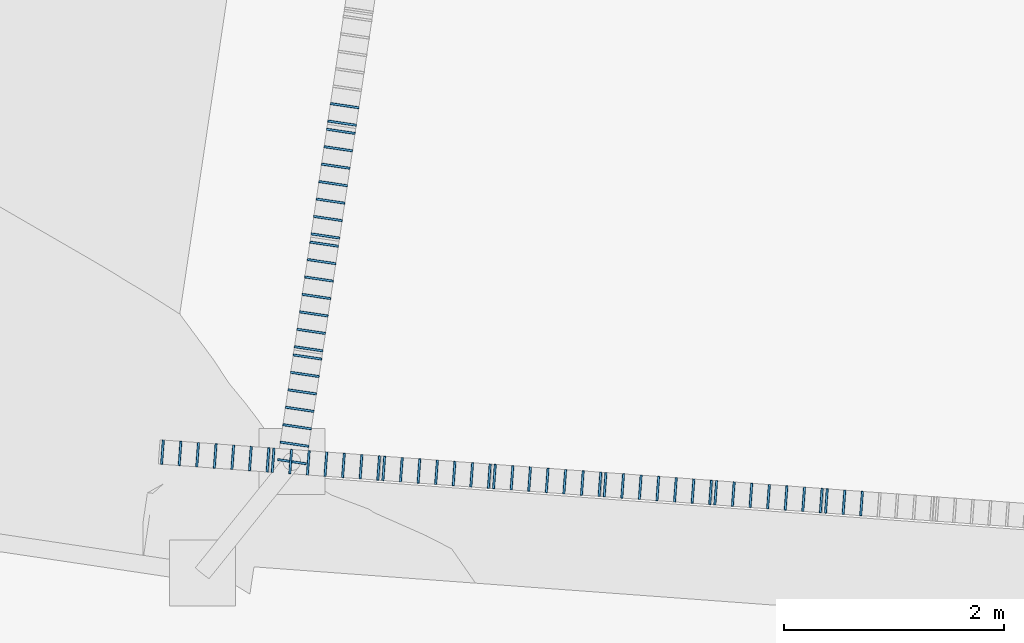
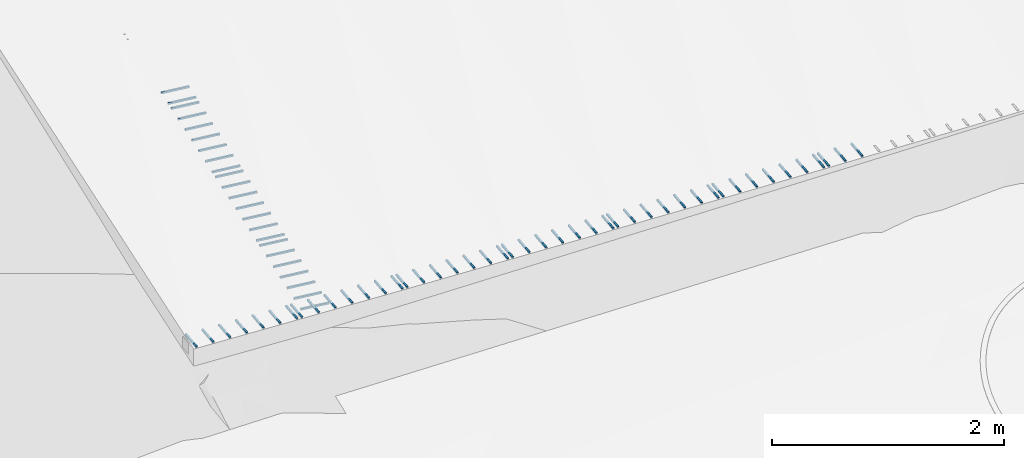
# Not in any storey, part 1 of 33: 68 members.
"""IFC4 model written with IfcOpenShell, lengths in metres."""

from ifc_helpers import new_model, si_unit, direction, frame, origin_with_axes, place, context, subcontext, project, spatial, rectangle, extrude, material, material_profile, profile_set, profile_usage, type_object, element, save


model = new_model("IFC4")

# Units and contexts
model_context = context("Model", 3, precision=1e-05, world=origin_with_axes(), true_north=direction((0.0, 1.0)))
body_context = subcontext(model_context, "Body", "Model", "MODEL_VIEW")
ifc_project = project(units=[si_unit("LENGTHUNIT", "METRE"), si_unit("AREAUNIT", "SQUARE_METRE"), si_unit("VOLUMEUNIT", "CUBIC_METRE")], contexts=[model_context])

# Site
site_placement = place(None, origin_with_axes())
site = spatial("IfcSite", under=ifc_project, at=site_placement, Name="Lares · Rua das Mercês · artigo 4771")

# Members
ifc_material = material(Name="Aço galvanizado / Stahl verzinkt", Category="steel")
ifc_material_profile = material_profile(ifc_material, rectangle(XDim=0.018, YDim=0.018))
ifc_profile_set = profile_set([ifc_material_profile], Name="R0.018")
ifc_profile_usage_1 = profile_usage(ifc_profile_set)
member_type = type_object("IfcMemberType", Name="R0.018 / galvanized", PredefinedType="NOTDEFINED", material=ifc_profile_set)
member_1_placement = place(site_placement, frame((46.6781659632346, 3.21903756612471, 14.4967569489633), z_axis=(0.0733060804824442, 0.997309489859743, 0.0), x_axis=(0.997309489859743, -0.0733060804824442, 0.0)))
element("IfcMember", 1, at=member_1_placement, inside=site, type_object=member_type, material=ifc_profile_usage_1, Name="Acesso · dreno lateral raso · grelha", context=body_context, shape_type="SweptSolid", body=[
    extrude(rectangle(XDim=0.018, YDim=0.018), origin_with_axes(), (0.0, 0.0, 1.0), 0.22),
])
ifc_profile_usage_2 = profile_usage(ifc_profile_set)
member_2_placement = place(site_placement, frame((46.8377354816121, 3.20730859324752, 14.4975940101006), z_axis=(0.0733060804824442, 0.997309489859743, 0.0), x_axis=(0.997309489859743, -0.0733060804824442, 0.0)))
element("IfcMember", 2, at=member_2_placement, inside=site, type_object=member_type, material=ifc_profile_usage_2, Name="Acesso · dreno lateral raso · grelha", context=body_context, shape_type="SweptSolid", body=[
    extrude(rectangle(XDim=0.018, YDim=0.018), origin_with_axes(), (0.0, 0.0, 1.0), 0.22),
])
ifc_profile_usage_3 = profile_usage(ifc_profile_set)
member_3_placement = place(site_placement, frame((46.9973049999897, 3.19557962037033, 14.498431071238), z_axis=(0.0733060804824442, 0.997309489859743, 0.0), x_axis=(0.997309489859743, -0.0733060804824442, 0.0)))
element("IfcMember", 3, at=member_3_placement, inside=site, type_object=member_type, material=ifc_profile_usage_3, Name="Acesso · dreno lateral raso · grelha", context=body_context, shape_type="SweptSolid", body=[
    extrude(rectangle(XDim=0.018, YDim=0.018), origin_with_axes(), (0.0, 0.0, 1.0), 0.22),
])
ifc_profile_usage_4 = profile_usage(ifc_profile_set)
member_4_placement = place(site_placement, frame((47.1568745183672, 3.18385064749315, 14.4992681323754), z_axis=(0.0733060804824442, 0.997309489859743, 0.0), x_axis=(0.997309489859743, -0.0733060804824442, 0.0)))
element("IfcMember", 4, at=member_4_placement, inside=site, type_object=member_type, material=ifc_profile_usage_4, Name="Acesso · dreno lateral raso · grelha", context=body_context, shape_type="SweptSolid", body=[
    extrude(rectangle(XDim=0.018, YDim=0.018), origin_with_axes(), (0.0, 0.0, 1.0), 0.22),
])
ifc_profile_usage_5 = profile_usage(ifc_profile_set)
member_5_placement = place(site_placement, frame((47.3164440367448, 3.17212167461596, 14.5001051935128), z_axis=(0.0733060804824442, 0.997309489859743, 0.0), x_axis=(0.997309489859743, -0.0733060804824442, 0.0)))
element("IfcMember", 5, at=member_5_placement, inside=site, type_object=member_type, material=ifc_profile_usage_5, Name="Acesso · dreno lateral raso · grelha", context=body_context, shape_type="SweptSolid", body=[
    extrude(rectangle(XDim=0.018, YDim=0.018), origin_with_axes(), (0.0, 0.0, 1.0), 0.22),
])
ifc_profile_usage_6 = profile_usage(ifc_profile_set)
member_6_placement = place(site_placement, frame((47.4760135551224, 3.16039270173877, 14.5009422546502), z_axis=(0.0733060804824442, 0.997309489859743, 0.0), x_axis=(0.997309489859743, -0.0733060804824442, 0.0)))
element("IfcMember", 6, at=member_6_placement, inside=site, type_object=member_type, material=ifc_profile_usage_6, Name="Acesso · dreno lateral raso · grelha", context=body_context, shape_type="SweptSolid", body=[
    extrude(rectangle(XDim=0.018, YDim=0.018), origin_with_axes(), (0.0, 0.0, 1.0), 0.22),
])
ifc_profile_usage_7 = profile_usage(ifc_profile_set)
member_7_placement = place(site_placement, frame((47.6355830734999, 3.14866372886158, 14.5017793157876), z_axis=(0.0733060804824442, 0.997309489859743, 0.0), x_axis=(0.997309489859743, -0.0733060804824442, 0.0)))
element("IfcMember", 7, at=member_7_placement, inside=site, type_object=member_type, material=ifc_profile_usage_7, Name="Acesso · dreno lateral raso · grelha", context=body_context, shape_type="SweptSolid", body=[
    extrude(rectangle(XDim=0.018, YDim=0.018), origin_with_axes(), (0.0, 0.0, 1.0), 0.22),
])
ifc_profile_usage_8 = profile_usage(ifc_profile_set)
member_8_placement = place(site_placement, frame((47.6823379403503, 3.14522706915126, 14.5020796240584), z_axis=(0.0733059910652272, 0.997309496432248, 0.0), x_axis=(0.997309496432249, -0.0733059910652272, 0.0)))
element("IfcMember", 8, at=member_8_placement, inside=site, type_object=member_type, material=ifc_profile_usage_8, Name="Acesso · dreno lateral raso · grelha", context=body_context, shape_type="SweptSolid", body=[
    extrude(rectangle(XDim=0.018, YDim=0.018), origin_with_axes(), (0.0, 0.0, 1.0), 0.22),
])
ifc_profile_usage_9 = profile_usage(ifc_profile_set)
member_9_placement = place(site_placement, frame((47.8419074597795, 3.13349811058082, 14.5032102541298), z_axis=(0.0733059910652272, 0.997309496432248, 0.0), x_axis=(0.997309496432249, -0.0733059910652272, 0.0)))
element("IfcMember", 9, at=member_9_placement, inside=site, type_object=member_type, material=ifc_profile_usage_9, Name="Acesso · dreno lateral raso · grelha", context=body_context, shape_type="SweptSolid", body=[
    extrude(rectangle(XDim=0.018, YDim=0.018), origin_with_axes(), (0.0, 0.0, 1.0), 0.22),
])
ifc_profile_usage_10 = profile_usage(ifc_profile_set)
member_10_placement = place(site_placement, frame((48.0014769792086, 3.12176915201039, 14.5043408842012), z_axis=(0.0733059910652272, 0.997309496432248, 0.0), x_axis=(0.997309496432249, -0.0733059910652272, 0.0)))
element("IfcMember", 10, at=member_10_placement, inside=site, type_object=member_type, material=ifc_profile_usage_10, Name="Acesso · dreno lateral raso · grelha", context=body_context, shape_type="SweptSolid", body=[
    extrude(rectangle(XDim=0.018, YDim=0.018), origin_with_axes(), (0.0, 0.0, 1.0), 0.22),
])
ifc_profile_usage_11 = profile_usage(ifc_profile_set)
member_11_placement = place(site_placement, frame((48.1610464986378, 3.11004019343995, 14.5054715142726), z_axis=(0.0733059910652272, 0.997309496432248, 0.0), x_axis=(0.997309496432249, -0.0733059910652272, 0.0)))
element("IfcMember", 11, at=member_11_placement, inside=site, type_object=member_type, material=ifc_profile_usage_11, Name="Acesso · dreno lateral raso · grelha", context=body_context, shape_type="SweptSolid", body=[
    extrude(rectangle(XDim=0.018, YDim=0.018), origin_with_axes(), (0.0, 0.0, 1.0), 0.22),
])
ifc_profile_usage_12 = profile_usage(ifc_profile_set)
member_12_placement = place(site_placement, frame((48.3206160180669, 3.09831123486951, 14.506602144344), z_axis=(0.0733059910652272, 0.997309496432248, 0.0), x_axis=(0.997309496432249, -0.0733059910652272, 0.0)))
element("IfcMember", 12, at=member_12_placement, inside=site, type_object=member_type, material=ifc_profile_usage_12, Name="Acesso · dreno lateral raso · grelha", context=body_context, shape_type="SweptSolid", body=[
    extrude(rectangle(XDim=0.018, YDim=0.018), origin_with_axes(), (0.0, 0.0, 1.0), 0.22),
])
ifc_profile_usage_13 = profile_usage(ifc_profile_set)
member_13_placement = place(site_placement, frame((48.4801855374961, 3.08658227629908, 14.5077327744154), z_axis=(0.0733059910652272, 0.997309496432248, 0.0), x_axis=(0.997309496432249, -0.0733059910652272, 0.0)))
element("IfcMember", 13, at=member_13_placement, inside=site, type_object=member_type, material=ifc_profile_usage_13, Name="Acesso · dreno lateral raso · grelha", context=body_context, shape_type="SweptSolid", body=[
    extrude(rectangle(XDim=0.018, YDim=0.018), origin_with_axes(), (0.0, 0.0, 1.0), 0.22),
])
ifc_profile_usage_14 = profile_usage(ifc_profile_set)
member_14_placement = place(site_placement, frame((48.6397550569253, 3.07485331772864, 14.5088634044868), z_axis=(0.0733059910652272, 0.997309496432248, 0.0), x_axis=(0.997309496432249, -0.0733059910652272, 0.0)))
element("IfcMember", 14, at=member_14_placement, inside=site, type_object=member_type, material=ifc_profile_usage_14, Name="Acesso · dreno lateral raso · grelha", context=body_context, shape_type="SweptSolid", body=[
    extrude(rectangle(XDim=0.018, YDim=0.018), origin_with_axes(), (0.0, 0.0, 1.0), 0.22),
])
ifc_profile_usage_15 = profile_usage(ifc_profile_set)
member_15_placement = place(site_placement, frame((48.6865066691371, 3.07141690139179, 14.5092497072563), z_axis=(0.073305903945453, 0.997309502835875, 0.0), x_axis=(0.997309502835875, -0.073305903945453, 0.0)))
element("IfcMember", 15, at=member_15_placement, inside=site, type_object=member_type, material=ifc_profile_usage_15, Name="Acesso · dreno lateral raso · grelha", context=body_context, shape_type="SweptSolid", body=[
    extrude(rectangle(XDim=0.018, YDim=0.018), origin_with_axes(), (0.0, 0.0, 1.0), 0.22),
])
ifc_profile_usage_16 = profile_usage(ifc_profile_set)
member_16_placement = place(site_placement, frame((48.8460761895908, 3.05968795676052, 14.5106739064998), z_axis=(0.073305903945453, 0.997309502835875, 0.0), x_axis=(0.997309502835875, -0.073305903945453, 0.0)))
element("IfcMember", 16, at=member_16_placement, inside=site, type_object=member_type, material=ifc_profile_usage_16, Name="Acesso · dreno lateral raso · grelha", context=body_context, shape_type="SweptSolid", body=[
    extrude(rectangle(XDim=0.018, YDim=0.018), origin_with_axes(), (0.0, 0.0, 1.0), 0.22),
])
ifc_profile_usage_17 = profile_usage(ifc_profile_set)
member_17_placement = place(site_placement, frame((49.0056457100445, 3.04795901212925, 14.5120981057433), z_axis=(0.073305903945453, 0.997309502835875, 0.0), x_axis=(0.997309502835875, -0.073305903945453, 0.0)))
element("IfcMember", 17, at=member_17_placement, inside=site, type_object=member_type, material=ifc_profile_usage_17, Name="Acesso · dreno lateral raso · grelha", context=body_context, shape_type="SweptSolid", body=[
    extrude(rectangle(XDim=0.018, YDim=0.018), origin_with_axes(), (0.0, 0.0, 1.0), 0.22),
])
ifc_profile_usage_18 = profile_usage(ifc_profile_set)
member_18_placement = place(site_placement, frame((49.1652152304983, 3.03623006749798, 14.5135223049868), z_axis=(0.073305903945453, 0.997309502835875, 0.0), x_axis=(0.997309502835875, -0.073305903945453, 0.0)))
element("IfcMember", 18, at=member_18_placement, inside=site, type_object=member_type, material=ifc_profile_usage_18, Name="Acesso · dreno lateral raso · grelha", context=body_context, shape_type="SweptSolid", body=[
    extrude(rectangle(XDim=0.018, YDim=0.018), origin_with_axes(), (0.0, 0.0, 1.0), 0.22),
])
ifc_profile_usage_19 = profile_usage(ifc_profile_set)
member_19_placement = place(site_placement, frame((49.324784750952, 3.02450112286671, 14.5149465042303), z_axis=(0.073305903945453, 0.997309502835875, 0.0), x_axis=(0.997309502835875, -0.073305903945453, 0.0)))
element("IfcMember", 19, at=member_19_placement, inside=site, type_object=member_type, material=ifc_profile_usage_19, Name="Acesso · dreno lateral raso · grelha", context=body_context, shape_type="SweptSolid", body=[
    extrude(rectangle(XDim=0.018, YDim=0.018), origin_with_axes(), (0.0, 0.0, 1.0), 0.22),
])
ifc_profile_usage_20 = profile_usage(ifc_profile_set)
member_20_placement = place(site_placement, frame((49.4843542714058, 3.01277217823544, 14.5163707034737), z_axis=(0.073305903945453, 0.997309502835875, 0.0), x_axis=(0.997309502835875, -0.073305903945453, 0.0)))
element("IfcMember", 20, at=member_20_placement, inside=site, type_object=member_type, material=ifc_profile_usage_20, Name="Acesso · dreno lateral raso · grelha", context=body_context, shape_type="SweptSolid", body=[
    extrude(rectangle(XDim=0.018, YDim=0.018), origin_with_axes(), (0.0, 0.0, 1.0), 0.22),
])
ifc_profile_usage_21 = profile_usage(ifc_profile_set)
member_21_placement = place(site_placement, frame((49.6439237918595, 3.00104323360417, 14.5177949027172), z_axis=(0.073305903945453, 0.997309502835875, 0.0), x_axis=(0.997309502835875, -0.073305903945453, 0.0)))
element("IfcMember", 21, at=member_21_placement, inside=site, type_object=member_type, material=ifc_profile_usage_21, Name="Acesso · dreno lateral raso · grelha", context=body_context, shape_type="SweptSolid", body=[
    extrude(rectangle(XDim=0.018, YDim=0.018), origin_with_axes(), (0.0, 0.0, 1.0), 0.22),
])
ifc_profile_usage_22 = profile_usage(ifc_profile_set)
member_22_placement = place(site_placement, frame((49.6906720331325, 2.99760706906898, 14.5182671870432), z_axis=(0.073305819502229, 0.997309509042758, 0.0), x_axis=(0.997309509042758, -0.073305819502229, 0.0)))
element("IfcMember", 22, at=member_22_placement, inside=site, type_object=member_type, material=ifc_profile_usage_22, Name="Acesso · dreno lateral raso · grelha", context=body_context, shape_type="SweptSolid", body=[
    extrude(rectangle(XDim=0.018, YDim=0.018), origin_with_axes(), (0.0, 0.0, 1.0), 0.22),
])
ifc_profile_usage_23 = profile_usage(ifc_profile_set)
member_23_placement = place(site_placement, frame((49.8502415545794, 2.98587813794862, 14.5199849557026), z_axis=(0.073305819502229, 0.997309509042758, 0.0), x_axis=(0.997309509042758, -0.073305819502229, 0.0)))
element("IfcMember", 23, at=member_23_placement, inside=site, type_object=member_type, material=ifc_profile_usage_23, Name="Acesso · dreno lateral raso · grelha", context=body_context, shape_type="SweptSolid", body=[
    extrude(rectangle(XDim=0.018, YDim=0.018), origin_with_axes(), (0.0, 0.0, 1.0), 0.22),
])
ifc_profile_usage_24 = profile_usage(ifc_profile_set)
member_24_placement = place(site_placement, frame((50.0098110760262, 2.97414920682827, 14.521702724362), z_axis=(0.073305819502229, 0.997309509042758, 0.0), x_axis=(0.997309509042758, -0.073305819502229, 0.0)))
element("IfcMember", 24, at=member_24_placement, inside=site, type_object=member_type, material=ifc_profile_usage_24, Name="Acesso · dreno lateral raso · grelha", context=body_context, shape_type="SweptSolid", body=[
    extrude(rectangle(XDim=0.018, YDim=0.018), origin_with_axes(), (0.0, 0.0, 1.0), 0.22),
])
ifc_profile_usage_25 = profile_usage(ifc_profile_set)
member_25_placement = place(site_placement, frame((50.169380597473, 2.96242027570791, 14.5234204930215), z_axis=(0.073305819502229, 0.997309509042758, 0.0), x_axis=(0.997309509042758, -0.073305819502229, 0.0)))
element("IfcMember", 25, at=member_25_placement, inside=site, type_object=member_type, material=ifc_profile_usage_25, Name="Acesso · dreno lateral raso · grelha", context=body_context, shape_type="SweptSolid", body=[
    extrude(rectangle(XDim=0.018, YDim=0.018), origin_with_axes(), (0.0, 0.0, 1.0), 0.22),
])
ifc_profile_usage_26 = profile_usage(ifc_profile_set)
member_26_placement = place(site_placement, frame((50.3289501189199, 2.95069134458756, 14.5251382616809), z_axis=(0.073305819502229, 0.997309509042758, 0.0), x_axis=(0.997309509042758, -0.073305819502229, 0.0)))
element("IfcMember", 26, at=member_26_placement, inside=site, type_object=member_type, material=ifc_profile_usage_26, Name="Acesso · dreno lateral raso · grelha", context=body_context, shape_type="SweptSolid", body=[
    extrude(rectangle(XDim=0.018, YDim=0.018), origin_with_axes(), (0.0, 0.0, 1.0), 0.22),
])
ifc_profile_usage_27 = profile_usage(ifc_profile_set)
member_27_placement = place(site_placement, frame((50.4885196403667, 2.9389624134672, 14.5268560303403), z_axis=(0.073305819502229, 0.997309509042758, 0.0), x_axis=(0.997309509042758, -0.073305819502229, 0.0)))
element("IfcMember", 27, at=member_27_placement, inside=site, type_object=member_type, material=ifc_profile_usage_27, Name="Acesso · dreno lateral raso · grelha", context=body_context, shape_type="SweptSolid", body=[
    extrude(rectangle(XDim=0.018, YDim=0.018), origin_with_axes(), (0.0, 0.0, 1.0), 0.22),
])
ifc_profile_usage_28 = profile_usage(ifc_profile_set)
member_28_placement = place(site_placement, frame((50.6480891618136, 2.92723348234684, 14.5285737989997), z_axis=(0.073305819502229, 0.997309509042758, 0.0), x_axis=(0.997309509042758, -0.073305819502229, 0.0)))
element("IfcMember", 28, at=member_28_placement, inside=site, type_object=member_type, material=ifc_profile_usage_28, Name="Acesso · dreno lateral raso · grelha", context=body_context, shape_type="SweptSolid", body=[
    extrude(rectangle(XDim=0.018, YDim=0.018), origin_with_axes(), (0.0, 0.0, 1.0), 0.22),
])
ifc_profile_usage_29 = profile_usage(ifc_profile_set)
member_29_placement = place(site_placement, frame((50.6948339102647, 2.92379757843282, 14.5291320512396), z_axis=(0.0733057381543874, 0.997309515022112, 0.0), x_axis=(0.997309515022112, -0.0733057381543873, 0.0)))
element("IfcMember", 29, at=member_29_placement, inside=site, type_object=member_type, material=ifc_profile_usage_29, Name="Acesso · dreno lateral raso · grelha", context=body_context, shape_type="SweptSolid", body=[
    extrude(rectangle(XDim=0.018, YDim=0.018), origin_with_axes(), (0.0, 0.0, 1.0), 0.22),
])
ifc_profile_usage_30 = profile_usage(ifc_profile_set)
member_30_placement = place(site_placement, frame((50.8544034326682, 2.91206866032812, 14.5311433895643), z_axis=(0.0733057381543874, 0.997309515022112, 0.0), x_axis=(0.997309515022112, -0.0733057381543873, 0.0)))
element("IfcMember", 30, at=member_30_placement, inside=site, type_object=member_type, material=ifc_profile_usage_30, Name="Acesso · dreno lateral raso · grelha", context=body_context, shape_type="SweptSolid", body=[
    extrude(rectangle(XDim=0.018, YDim=0.018), origin_with_axes(), (0.0, 0.0, 1.0), 0.22),
])
ifc_profile_usage_31 = profile_usage(ifc_profile_set)
member_31_placement = place(site_placement, frame((51.0139729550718, 2.90033974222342, 14.533154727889), z_axis=(0.0733057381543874, 0.997309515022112, 0.0), x_axis=(0.997309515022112, -0.0733057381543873, 0.0)))
element("IfcMember", 31, at=member_31_placement, inside=site, type_object=member_type, material=ifc_profile_usage_31, Name="Acesso · dreno lateral raso · grelha", context=body_context, shape_type="SweptSolid", body=[
    extrude(rectangle(XDim=0.018, YDim=0.018), origin_with_axes(), (0.0, 0.0, 1.0), 0.22),
])
ifc_profile_usage_32 = profile_usage(ifc_profile_set)
member_32_placement = place(site_placement, frame((51.1735424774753, 2.88861082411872, 14.5351660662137), z_axis=(0.0733057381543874, 0.997309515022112, 0.0), x_axis=(0.997309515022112, -0.0733057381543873, 0.0)))
element("IfcMember", 32, at=member_32_placement, inside=site, type_object=member_type, material=ifc_profile_usage_32, Name="Acesso · dreno lateral raso · grelha", context=body_context, shape_type="SweptSolid", body=[
    extrude(rectangle(XDim=0.018, YDim=0.018), origin_with_axes(), (0.0, 0.0, 1.0), 0.22),
])
ifc_profile_usage_33 = profile_usage(ifc_profile_set)
member_33_placement = place(site_placement, frame((51.3331119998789, 2.87688190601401, 14.5371774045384), z_axis=(0.0733057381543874, 0.997309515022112, 0.0), x_axis=(0.997309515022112, -0.0733057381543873, 0.0)))
element("IfcMember", 33, at=member_33_placement, inside=site, type_object=member_type, material=ifc_profile_usage_33, Name="Acesso · dreno lateral raso · grelha", context=body_context, shape_type="SweptSolid", body=[
    extrude(rectangle(XDim=0.018, YDim=0.018), origin_with_axes(), (0.0, 0.0, 1.0), 0.22),
])
ifc_profile_usage_34 = profile_usage(ifc_profile_set)
member_34_placement = place(site_placement, frame((51.4926815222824, 2.86515298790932, 14.5391887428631), z_axis=(0.0733057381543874, 0.997309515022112, 0.0), x_axis=(0.997309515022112, -0.0733057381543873, 0.0)))
element("IfcMember", 34, at=member_34_placement, inside=site, type_object=member_type, material=ifc_profile_usage_34, Name="Acesso · dreno lateral raso · grelha", context=body_context, shape_type="SweptSolid", body=[
    extrude(rectangle(XDim=0.018, YDim=0.018), origin_with_axes(), (0.0, 0.0, 1.0), 0.22),
])
ifc_profile_usage_35 = profile_usage(ifc_profile_set)
member_35_placement = place(site_placement, frame((51.6522510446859, 2.85342406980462, 14.5412000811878), z_axis=(0.0733057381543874, 0.997309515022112, 0.0), x_axis=(0.997309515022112, -0.0733057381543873, 0.0)))
element("IfcMember", 35, at=member_35_placement, inside=site, type_object=member_type, material=ifc_profile_usage_35, Name="Acesso · dreno lateral raso · grelha", context=body_context, shape_type="SweptSolid", body=[
    extrude(rectangle(XDim=0.018, YDim=0.018), origin_with_axes(), (0.0, 0.0, 1.0), 0.22),
])
ifc_profile_usage_36 = profile_usage(ifc_profile_set)
member_36_placement = place(site_placement, frame((51.6989921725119, 2.84998843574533, 14.5418442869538), z_axis=(0.0733056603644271, 0.997309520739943, 0.0), x_axis=(0.997309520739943, -0.0733056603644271, 0.0)))
element("IfcMember", 36, at=member_36_placement, inside=site, type_object=member_type, material=ifc_profile_usage_36, Name="Acesso · dreno lateral raso · grelha", context=body_context, shape_type="SweptSolid", body=[
    extrude(rectangle(XDim=0.018, YDim=0.018), origin_with_axes(), (0.0, 0.0, 1.0), 0.22),
])
ifc_profile_usage_37 = profile_usage(ifc_profile_set)
member_37_placement = place(site_placement, frame((51.8585616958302, 2.83825953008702, 14.5441491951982), z_axis=(0.0733056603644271, 0.997309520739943, 0.0), x_axis=(0.997309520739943, -0.0733056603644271, 0.0)))
element("IfcMember", 37, at=member_37_placement, inside=site, type_object=member_type, material=ifc_profile_usage_37, Name="Acesso · dreno lateral raso · grelha", context=body_context, shape_type="SweptSolid", body=[
    extrude(rectangle(XDim=0.018, YDim=0.018), origin_with_axes(), (0.0, 0.0, 1.0), 0.22),
])
ifc_profile_usage_38 = profile_usage(ifc_profile_set)
member_38_placement = place(site_placement, frame((52.0181312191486, 2.82653062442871, 14.5464541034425), z_axis=(0.0733056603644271, 0.997309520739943, 0.0), x_axis=(0.997309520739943, -0.0733056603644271, 0.0)))
element("IfcMember", 38, at=member_38_placement, inside=site, type_object=member_type, material=ifc_profile_usage_38, Name="Acesso · dreno lateral raso · grelha", context=body_context, shape_type="SweptSolid", body=[
    extrude(rectangle(XDim=0.018, YDim=0.018), origin_with_axes(), (0.0, 0.0, 1.0), 0.22),
])
ifc_profile_usage_39 = profile_usage(ifc_profile_set)
member_39_placement = place(site_placement, frame((52.177700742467, 2.8148017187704, 14.5487590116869), z_axis=(0.0733056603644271, 0.997309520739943, 0.0), x_axis=(0.997309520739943, -0.0733056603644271, 0.0)))
element("IfcMember", 39, at=member_39_placement, inside=site, type_object=member_type, material=ifc_profile_usage_39, Name="Acesso · dreno lateral raso · grelha", context=body_context, shape_type="SweptSolid", body=[
    extrude(rectangle(XDim=0.018, YDim=0.018), origin_with_axes(), (0.0, 0.0, 1.0), 0.22),
])
ifc_profile_usage_40 = profile_usage(ifc_profile_set)
member_40_placement = place(site_placement, frame((52.3372702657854, 2.80307281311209, 14.5510639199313), z_axis=(0.0733056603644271, 0.997309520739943, 0.0), x_axis=(0.997309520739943, -0.0733056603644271, 0.0)))
element("IfcMember", 40, at=member_40_placement, inside=site, type_object=member_type, material=ifc_profile_usage_40, Name="Acesso · dreno lateral raso · grelha", context=body_context, shape_type="SweptSolid", body=[
    extrude(rectangle(XDim=0.018, YDim=0.018), origin_with_axes(), (0.0, 0.0, 1.0), 0.22),
])
ifc_profile_usage_41 = profile_usage(ifc_profile_set)
member_41_placement = place(site_placement, frame((52.4968397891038, 2.79134390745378, 14.5533688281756), z_axis=(0.0733056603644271, 0.997309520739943, 0.0), x_axis=(0.997309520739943, -0.0733056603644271, 0.0)))
element("IfcMember", 41, at=member_41_placement, inside=site, type_object=member_type, material=ifc_profile_usage_41, Name="Acesso · dreno lateral raso · grelha", context=body_context, shape_type="SweptSolid", body=[
    extrude(rectangle(XDim=0.018, YDim=0.018), origin_with_axes(), (0.0, 0.0, 1.0), 0.22),
])
ifc_profile_usage_42 = profile_usage(ifc_profile_set)
member_42_placement = place(site_placement, frame((52.6564093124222, 2.77961500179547, 14.55567373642), z_axis=(0.0733056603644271, 0.997309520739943, 0.0), x_axis=(0.997309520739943, -0.0733056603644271, 0.0)))
element("IfcMember", 42, at=member_42_placement, inside=site, type_object=member_type, material=ifc_profile_usage_42, Name="Acesso · dreno lateral raso · grelha", context=body_context, shape_type="SweptSolid", body=[
    extrude(rectangle(XDim=0.018, YDim=0.018), origin_with_axes(), (0.0, 0.0, 1.0), 0.22),
])
ifc_profile_usage_43 = profile_usage(ifc_profile_set)
member_43_placement = place(site_placement, frame((52.7031466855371, 2.77617964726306, 14.5564038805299), z_axis=(0.0733055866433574, 0.997309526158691, 0.0), x_axis=(0.997309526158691, -0.0733055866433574, 0.0)))
element("IfcMember", 43, at=member_43_placement, inside=site, type_object=member_type, material=ifc_profile_usage_43, Name="Acesso · dreno lateral raso · grelha", context=body_context, shape_type="SweptSolid", body=[
    extrude(rectangle(XDim=0.018, YDim=0.018), origin_with_axes(), (0.0, 0.0, 1.0), 0.22),
])
ifc_profile_usage_44 = profile_usage(ifc_profile_set)
member_44_placement = place(site_placement, frame((52.8627162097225, 2.76445075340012, 14.5590023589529), z_axis=(0.0733055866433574, 0.997309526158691, 0.0), x_axis=(0.997309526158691, -0.0733055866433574, 0.0)))
element("IfcMember", 44, at=member_44_placement, inside=site, type_object=member_type, material=ifc_profile_usage_44, Name="Acesso · dreno lateral raso · grelha", context=body_context, shape_type="SweptSolid", body=[
    extrude(rectangle(XDim=0.018, YDim=0.018), origin_with_axes(), (0.0, 0.0, 1.0), 0.22),
])
ifc_profile_usage_45 = profile_usage(ifc_profile_set)
member_45_placement = place(site_placement, frame((53.0222857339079, 2.75272185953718, 14.5616008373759), z_axis=(0.0733055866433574, 0.997309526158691, 0.0), x_axis=(0.997309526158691, -0.0733055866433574, 0.0)))
element("IfcMember", 45, at=member_45_placement, inside=site, type_object=member_type, material=ifc_profile_usage_45, Name="Acesso · dreno lateral raso · grelha", context=body_context, shape_type="SweptSolid", body=[
    extrude(rectangle(XDim=0.018, YDim=0.018), origin_with_axes(), (0.0, 0.0, 1.0), 0.22),
])
ifc_profile_usage_46 = profile_usage(ifc_profile_set)
member_46_placement = place(site_placement, frame((47.9899128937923, 3.22331773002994, 14.5031428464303), z_axis=(-0.989204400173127, 0.146542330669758, 0.0), x_axis=(0.146542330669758, 0.989204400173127, 0.0)))
element("IfcMember", 46, at=member_46_placement, inside=site, type_object=member_type, material=ifc_profile_usage_46, Name="Interceção · caleira estacionamento · grelha", context=body_context, shape_type="SweptSolid", body=[
    extrude(rectangle(XDim=0.018, YDim=0.018), origin_with_axes(), (0.0, 0.0, 1.0), 0.260000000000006),
])
ifc_profile_usage_47 = profile_usage(ifc_profile_set)
member_47_placement = place(site_placement, frame((48.0133596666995, 3.38159043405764, 14.5103716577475), z_axis=(-0.989204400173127, 0.146542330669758, 0.0), x_axis=(0.146542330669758, 0.989204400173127, 0.0)))
element("IfcMember", 47, at=member_47_placement, inside=site, type_object=member_type, material=ifc_profile_usage_47, Name="Interceção · caleira estacionamento · grelha", context=body_context, shape_type="SweptSolid", body=[
    extrude(rectangle(XDim=0.018, YDim=0.018), origin_with_axes(), (0.0, 0.0, 1.0), 0.260000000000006),
])
ifc_profile_usage_48 = profile_usage(ifc_profile_set)
member_48_placement = place(site_placement, frame((48.0368064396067, 3.53986313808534, 14.5176004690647), z_axis=(-0.989204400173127, 0.146542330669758, 0.0), x_axis=(0.146542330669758, 0.989204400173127, 0.0)))
element("IfcMember", 48, at=member_48_placement, inside=site, type_object=member_type, material=ifc_profile_usage_48, Name="Interceção · caleira estacionamento · grelha", context=body_context, shape_type="SweptSolid", body=[
    extrude(rectangle(XDim=0.018, YDim=0.018), origin_with_axes(), (0.0, 0.0, 1.0), 0.260000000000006),
])
ifc_profile_usage_49 = profile_usage(ifc_profile_set)
member_49_placement = place(site_placement, frame((48.0602532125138, 3.69813584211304, 14.524829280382), z_axis=(-0.989204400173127, 0.146542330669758, 0.0), x_axis=(0.146542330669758, 0.989204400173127, 0.0)))
element("IfcMember", 49, at=member_49_placement, inside=site, type_object=member_type, material=ifc_profile_usage_49, Name="Interceção · caleira estacionamento · grelha", context=body_context, shape_type="SweptSolid", body=[
    extrude(rectangle(XDim=0.018, YDim=0.018), origin_with_axes(), (0.0, 0.0, 1.0), 0.260000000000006),
])
ifc_profile_usage_50 = profile_usage(ifc_profile_set)
member_50_placement = place(site_placement, frame((48.083699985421, 3.85640854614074, 14.5320580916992), z_axis=(-0.989204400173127, 0.146542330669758, 0.0), x_axis=(0.146542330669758, 0.989204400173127, 0.0)))
element("IfcMember", 50, at=member_50_placement, inside=site, type_object=member_type, material=ifc_profile_usage_50, Name="Interceção · caleira estacionamento · grelha", context=body_context, shape_type="SweptSolid", body=[
    extrude(rectangle(XDim=0.018, YDim=0.018), origin_with_axes(), (0.0, 0.0, 1.0), 0.260000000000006),
])
ifc_profile_usage_51 = profile_usage(ifc_profile_set)
member_51_placement = place(site_placement, frame((48.1071467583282, 4.01468125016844, 14.5392869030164), z_axis=(-0.989204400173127, 0.146542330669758, 0.0), x_axis=(0.146542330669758, 0.989204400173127, 0.0)))
element("IfcMember", 51, at=member_51_placement, inside=site, type_object=member_type, material=ifc_profile_usage_51, Name="Interceção · caleira estacionamento · grelha", context=body_context, shape_type="SweptSolid", body=[
    extrude(rectangle(XDim=0.018, YDim=0.018), origin_with_axes(), (0.0, 0.0, 1.0), 0.260000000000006),
])
ifc_profile_usage_52 = profile_usage(ifc_profile_set)
member_52_placement = place(site_placement, frame((48.1305935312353, 4.17295395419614, 14.5465157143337), z_axis=(-0.989204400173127, 0.146542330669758, 0.0), x_axis=(0.146542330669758, 0.989204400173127, 0.0)))
element("IfcMember", 52, at=member_52_placement, inside=site, type_object=member_type, material=ifc_profile_usage_52, Name="Interceção · caleira estacionamento · grelha", context=body_context, shape_type="SweptSolid", body=[
    extrude(rectangle(XDim=0.018, YDim=0.018), origin_with_axes(), (0.0, 0.0, 1.0), 0.260000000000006),
])
ifc_profile_usage_53 = profile_usage(ifc_profile_set)
member_53_placement = place(site_placement, frame((48.141607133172, 4.24729904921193, 14.5498888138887), z_axis=(-0.989204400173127, 0.146542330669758, 0.0), x_axis=(0.146542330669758, 0.989204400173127, 0.0)))
element("IfcMember", 53, at=member_53_placement, inside=site, type_object=member_type, material=ifc_profile_usage_53, Name="Interceção · caleira estacionamento · grelha", context=body_context, shape_type="SweptSolid", body=[
    extrude(rectangle(XDim=0.018, YDim=0.018), origin_with_axes(), (0.0, 0.0, 1.0), 0.260000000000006),
])
ifc_profile_usage_54 = profile_usage(ifc_profile_set)
member_54_placement = place(site_placement, frame((48.1650539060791, 4.40557175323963, 14.5569977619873), z_axis=(-0.989204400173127, 0.146542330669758, 0.0), x_axis=(0.146542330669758, 0.989204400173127, 0.0)))
element("IfcMember", 54, at=member_54_placement, inside=site, type_object=member_type, material=ifc_profile_usage_54, Name="Interceção · caleira estacionamento · grelha", context=body_context, shape_type="SweptSolid", body=[
    extrude(rectangle(XDim=0.018, YDim=0.018), origin_with_axes(), (0.0, 0.0, 1.0), 0.260000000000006),
])
ifc_profile_usage_55 = profile_usage(ifc_profile_set)
member_55_placement = place(site_placement, frame((48.1885006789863, 4.56384445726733, 14.5641067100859), z_axis=(-0.989204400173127, 0.146542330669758, 0.0), x_axis=(0.146542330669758, 0.989204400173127, 0.0)))
element("IfcMember", 55, at=member_55_placement, inside=site, type_object=member_type, material=ifc_profile_usage_55, Name="Interceção · caleira estacionamento · grelha", context=body_context, shape_type="SweptSolid", body=[
    extrude(rectangle(XDim=0.018, YDim=0.018), origin_with_axes(), (0.0, 0.0, 1.0), 0.260000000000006),
])
ifc_profile_usage_56 = profile_usage(ifc_profile_set)
member_56_placement = place(site_placement, frame((48.2119474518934, 4.72211716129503, 14.5712156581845), z_axis=(-0.989204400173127, 0.146542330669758, 0.0), x_axis=(0.146542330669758, 0.989204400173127, 0.0)))
element("IfcMember", 56, at=member_56_placement, inside=site, type_object=member_type, material=ifc_profile_usage_56, Name="Interceção · caleira estacionamento · grelha", context=body_context, shape_type="SweptSolid", body=[
    extrude(rectangle(XDim=0.018, YDim=0.018), origin_with_axes(), (0.0, 0.0, 1.0), 0.260000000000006),
])
ifc_profile_usage_57 = profile_usage(ifc_profile_set)
member_57_placement = place(site_placement, frame((48.2353942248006, 4.88038986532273, 14.5783246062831), z_axis=(-0.989204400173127, 0.146542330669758, 0.0), x_axis=(0.146542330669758, 0.989204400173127, 0.0)))
element("IfcMember", 57, at=member_57_placement, inside=site, type_object=member_type, material=ifc_profile_usage_57, Name="Interceção · caleira estacionamento · grelha", context=body_context, shape_type="SweptSolid", body=[
    extrude(rectangle(XDim=0.018, YDim=0.018), origin_with_axes(), (0.0, 0.0, 1.0), 0.260000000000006),
])
ifc_profile_usage_58 = profile_usage(ifc_profile_set)
member_58_placement = place(site_placement, frame((48.2588409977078, 5.03866256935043, 14.5854335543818), z_axis=(-0.989204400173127, 0.146542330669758, 0.0), x_axis=(0.146542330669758, 0.989204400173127, 0.0)))
element("IfcMember", 58, at=member_58_placement, inside=site, type_object=member_type, material=ifc_profile_usage_58, Name="Interceção · caleira estacionamento · grelha", context=body_context, shape_type="SweptSolid", body=[
    extrude(rectangle(XDim=0.018, YDim=0.018), origin_with_axes(), (0.0, 0.0, 1.0), 0.260000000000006),
])
ifc_profile_usage_59 = profile_usage(ifc_profile_set)
member_59_placement = place(site_placement, frame((48.2822877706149, 5.19693527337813, 14.5925425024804), z_axis=(-0.989204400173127, 0.146542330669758, 0.0), x_axis=(0.146542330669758, 0.989204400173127, 0.0)))
element("IfcMember", 59, at=member_59_placement, inside=site, type_object=member_type, material=ifc_profile_usage_59, Name="Interceção · caleira estacionamento · grelha", context=body_context, shape_type="SweptSolid", body=[
    extrude(rectangle(XDim=0.018, YDim=0.018), origin_with_axes(), (0.0, 0.0, 1.0), 0.260000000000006),
])
ifc_profile_usage_60 = profile_usage(ifc_profile_set)
member_60_placement = place(site_placement, frame((48.2933013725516, 5.27128036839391, 14.5958878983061), z_axis=(-0.989204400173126, 0.146542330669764, 0.0), x_axis=(0.146542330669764, 0.989204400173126, 0.0)))
element("IfcMember", 60, at=member_60_placement, inside=site, type_object=member_type, material=ifc_profile_usage_60, Name="Interceção · caleira estacionamento · grelha", context=body_context, shape_type="SweptSolid", body=[
    extrude(rectangle(XDim=0.018, YDim=0.018), origin_with_axes(), (0.0, 0.0, 1.0), 0.260000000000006),
])
ifc_profile_usage_61 = profile_usage(ifc_profile_set)
member_61_placement = place(site_placement, frame((48.3167481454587, 5.42955307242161, 14.6030295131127), z_axis=(-0.989204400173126, 0.146542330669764, 0.0), x_axis=(0.146542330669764, 0.989204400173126, 0.0)))
element("IfcMember", 61, at=member_61_placement, inside=site, type_object=member_type, material=ifc_profile_usage_61, Name="Interceção · caleira estacionamento · grelha", context=body_context, shape_type="SweptSolid", body=[
    extrude(rectangle(XDim=0.018, YDim=0.018), origin_with_axes(), (0.0, 0.0, 1.0), 0.260000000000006),
])
ifc_profile_usage_62 = profile_usage(ifc_profile_set)
member_62_placement = place(site_placement, frame((48.3401949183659, 5.58782577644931, 14.6101711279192), z_axis=(-0.989204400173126, 0.146542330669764, 0.0), x_axis=(0.146542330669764, 0.989204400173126, 0.0)))
element("IfcMember", 62, at=member_62_placement, inside=site, type_object=member_type, material=ifc_profile_usage_62, Name="Interceção · caleira estacionamento · grelha", context=body_context, shape_type="SweptSolid", body=[
    extrude(rectangle(XDim=0.018, YDim=0.018), origin_with_axes(), (0.0, 0.0, 1.0), 0.260000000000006),
])
ifc_profile_usage_63 = profile_usage(ifc_profile_set)
member_63_placement = place(site_placement, frame((48.3636416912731, 5.74609848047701, 14.6173127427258), z_axis=(-0.989204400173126, 0.146542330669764, 0.0), x_axis=(0.146542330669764, 0.989204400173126, 0.0)))
element("IfcMember", 63, at=member_63_placement, inside=site, type_object=member_type, material=ifc_profile_usage_63, Name="Interceção · caleira estacionamento · grelha", context=body_context, shape_type="SweptSolid", body=[
    extrude(rectangle(XDim=0.018, YDim=0.018), origin_with_axes(), (0.0, 0.0, 1.0), 0.260000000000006),
])
ifc_profile_usage_64 = profile_usage(ifc_profile_set)
member_64_placement = place(site_placement, frame((48.3870884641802, 5.90437118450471, 14.6244543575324), z_axis=(-0.989204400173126, 0.146542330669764, 0.0), x_axis=(0.146542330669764, 0.989204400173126, 0.0)))
element("IfcMember", 64, at=member_64_placement, inside=site, type_object=member_type, material=ifc_profile_usage_64, Name="Interceção · caleira estacionamento · grelha", context=body_context, shape_type="SweptSolid", body=[
    extrude(rectangle(XDim=0.018, YDim=0.018), origin_with_axes(), (0.0, 0.0, 1.0), 0.260000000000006),
])
ifc_profile_usage_65 = profile_usage(ifc_profile_set)
member_65_placement = place(site_placement, frame((48.4105352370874, 6.06264388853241, 14.6315959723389), z_axis=(-0.989204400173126, 0.146542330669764, 0.0), x_axis=(0.146542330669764, 0.989204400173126, 0.0)))
element("IfcMember", 65, at=member_65_placement, inside=site, type_object=member_type, material=ifc_profile_usage_65, Name="Interceção · caleira estacionamento · grelha", context=body_context, shape_type="SweptSolid", body=[
    extrude(rectangle(XDim=0.018, YDim=0.018), origin_with_axes(), (0.0, 0.0, 1.0), 0.260000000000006),
])
ifc_profile_usage_66 = profile_usage(ifc_profile_set)
member_66_placement = place(site_placement, frame((48.4339820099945, 6.22091659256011, 14.6387375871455), z_axis=(-0.989204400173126, 0.146542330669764, 0.0), x_axis=(0.146542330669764, 0.989204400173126, 0.0)))
element("IfcMember", 66, at=member_66_placement, inside=site, type_object=member_type, material=ifc_profile_usage_66, Name="Interceção · caleira estacionamento · grelha", context=body_context, shape_type="SweptSolid", body=[
    extrude(rectangle(XDim=0.018, YDim=0.018), origin_with_axes(), (0.0, 0.0, 1.0), 0.260000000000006),
])
ifc_profile_usage_67 = profile_usage(ifc_profile_set)
member_67_placement = place(site_placement, frame((48.4449956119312, 6.29526168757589, 14.6420922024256), z_axis=(-0.989204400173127, 0.146542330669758, 0.0), x_axis=(0.146542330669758, 0.989204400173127, 0.0)))
element("IfcMember", 67, at=member_67_placement, inside=site, type_object=member_type, material=ifc_profile_usage_67, Name="Interceção · caleira estacionamento · grelha", context=body_context, shape_type="SweptSolid", body=[
    extrude(rectangle(XDim=0.018, YDim=0.018), origin_with_axes(), (0.0, 0.0, 1.0), 0.260000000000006),
])
ifc_profile_usage_68 = profile_usage(ifc_profile_set)
member_68_placement = place(site_placement, frame((48.4684423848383, 6.4535343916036, 14.6492338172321), z_axis=(-0.989204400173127, 0.146542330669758, 0.0), x_axis=(0.146542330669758, 0.989204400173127, 0.0)))
element("IfcMember", 68, at=member_68_placement, inside=site, type_object=member_type, material=ifc_profile_usage_68, Name="Interceção · caleira estacionamento · grelha", context=body_context, shape_type="SweptSolid", body=[
    extrude(rectangle(XDim=0.018, YDim=0.018), origin_with_axes(), (0.0, 0.0, 1.0), 0.260000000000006),
])

save(model, "model.ifc")
